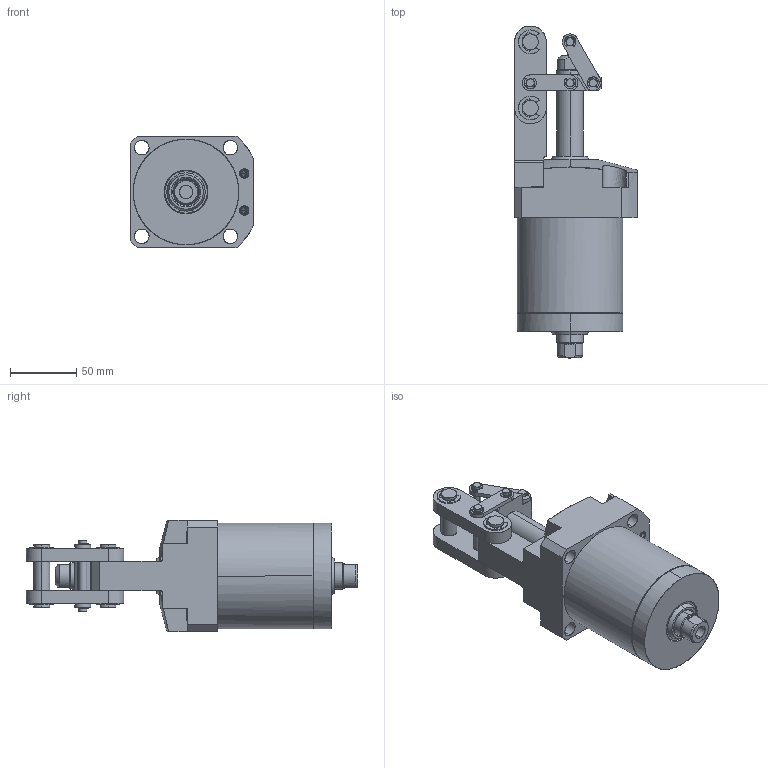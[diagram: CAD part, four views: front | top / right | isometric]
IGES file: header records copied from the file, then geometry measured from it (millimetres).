
Start section: Comment
Global section: file name: JLF5H52-50GD.igs; native system:  By Spatial Corp.; preprocessor: XPlus GENERIC/IGES 3.0; author: Author; organization: Title; date: 20080526.114633; units: millimetre
Bounding box: 93 x 250.99 x 84 mm (x, y, z)
Surface area: 128138.4 mm2 (no closed solid volume)
Topology: 0 solids, 0 shells, 623 faces, 3230 edges, 3220 vertices
Faces by surface type: bspline 623
